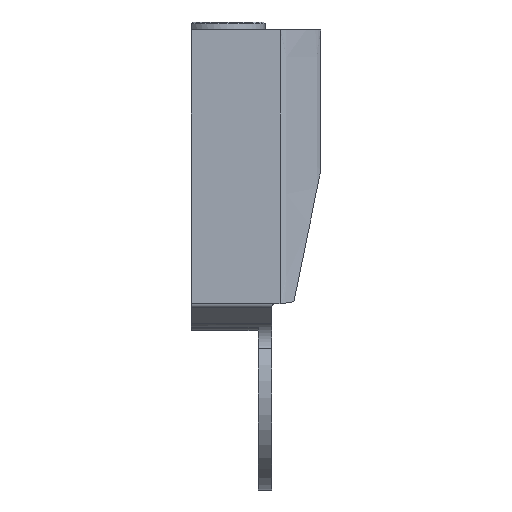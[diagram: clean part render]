
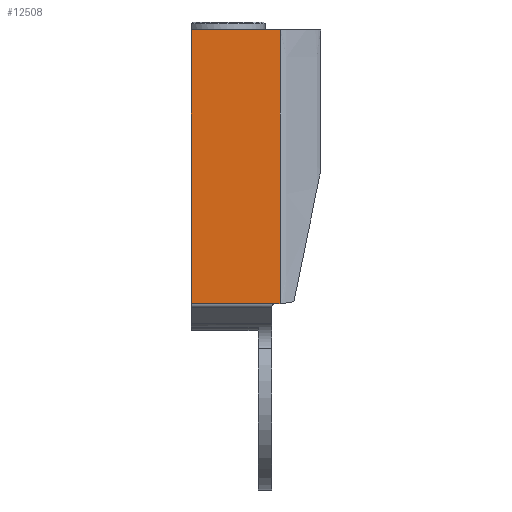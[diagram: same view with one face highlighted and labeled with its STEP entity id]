
A CAD part, front view. The second image highlights one B-rep face of the part: STEP entity #12508.
In plain terms, the highlighted planar face has unit normal (0, -1, 0).
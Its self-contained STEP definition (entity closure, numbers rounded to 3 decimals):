
#1538=CARTESIAN_POINT('',(-93.7,-62.,-240.5));
#2388=DIRECTION('',(1.,0.,0.));
#2389=VECTOR('',#2388,49.);
#2390=CARTESIAN_POINT('',(-145.5,-62.,-399.977));
#2391=LINE('',#2390,#2389);
#2401=DIRECTION('',(1.,0.,0.));
#2402=VECTOR('',#2401,51.8);
#2403=CARTESIAN_POINT('',(-145.5,-62.,-240.5));
#2404=LINE('',#2403,#2402);
#2405=DIRECTION('',(0.,0.,1.));
#2406=VECTOR('',#2405,159.477);
#2407=CARTESIAN_POINT('',(-145.5,-62.,-399.977));
#2408=LINE('',#2407,#2406);
#2438=DIRECTION('',(0.,0.,1.));
#2439=VECTOR('',#2438,159.477);
#2440=CARTESIAN_POINT('',(-93.7,-62.,-399.977));
#2441=LINE('',#2440,#2439);
#2567=DIRECTION('',(1.,0.,0.));
#2568=VECTOR('',#2567,2.8);
#2569=CARTESIAN_POINT('',(-96.5,-62.,-399.977));
#2570=LINE('',#2569,#2568);
#8655=CARTESIAN_POINT('',(-145.5,-62.,-240.5));
#8656=VERTEX_POINT('',#8655);
#8657=CARTESIAN_POINT('',(-145.5,-62.,-399.977));
#8658=VERTEX_POINT('',#8657);
#8843=VERTEX_POINT('',#1538);
#9738=CARTESIAN_POINT('',(-96.5,-62.,-399.977));
#9739=VERTEX_POINT('',#9738);
#9741=CARTESIAN_POINT('',(-93.7,-62.,-399.977));
#9742=VERTEX_POINT('',#9741);
#12494=CARTESIAN_POINT('',(-182.002,-62.,-319.738));
#12495=DIRECTION('',(0.,1.,0.));
#12496=DIRECTION('',(0.,0.,1.));
#12497=AXIS2_PLACEMENT_3D('',#12494,#12495,#12496);
#12498=PLANE('',#12497);
#12499=ORIENTED_EDGE('',*,*,#11872,.T.);
#12501=ORIENTED_EDGE('',*,*,#12500,.F.);
#12503=ORIENTED_EDGE('',*,*,#12502,.F.);
#12504=ORIENTED_EDGE('',*,*,#12485,.F.);
#12505=ORIENTED_EDGE('',*,*,#10868,.T.);
#12506=EDGE_LOOP('',(#12499,#12501,#12503,#12504,#12505));
#12507=FACE_OUTER_BOUND('',#12506,.F.);
#12508=ADVANCED_FACE('',(#12507),#12498,.F.);
#10868=EDGE_CURVE('',#8658,#8656,#2408,.T.);
#11872=EDGE_CURVE('',#8656,#8843,#2404,.T.);
#12485=EDGE_CURVE('',#8658,#9739,#2391,.T.);
#12500=EDGE_CURVE('',#9742,#8843,#2441,.T.);
#12502=EDGE_CURVE('',#9739,#9742,#2570,.T.);
